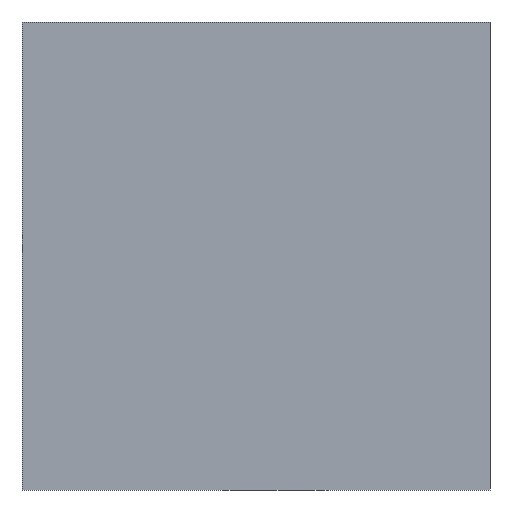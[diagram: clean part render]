
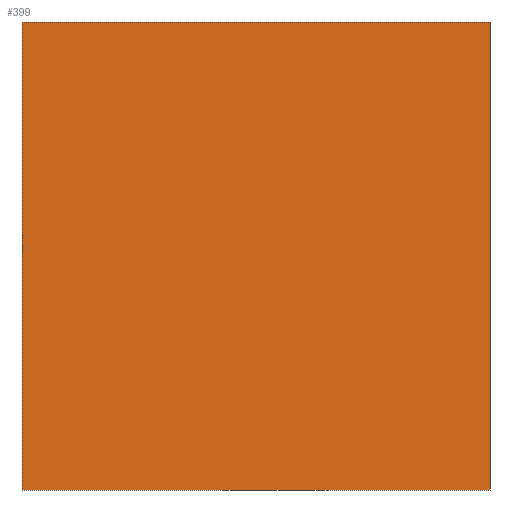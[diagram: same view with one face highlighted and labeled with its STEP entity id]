
A CAD part, left-side view. The second image highlights one B-rep face of the part: STEP entity #399.
In plain terms, the highlighted planar face has unit normal (-1, 0, 0).
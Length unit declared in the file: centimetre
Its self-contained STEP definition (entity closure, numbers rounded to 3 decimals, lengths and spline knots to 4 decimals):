
#5 = CARTESIAN_POINT ( 'NONE',  ( 0., 1000., 0. ) ) ;
#7 = PLANE ( 'NONE',  #333 ) ;
#15 = EDGE_LOOP ( 'NONE', ( #217, #89, #71, #335 ) ) ;
#52 = CARTESIAN_POINT ( 'NONE',  ( 0., 0., 0. ) ) ;
#66 = EDGE_CURVE ( 'NONE', #328, #346, #433, .T. ) ;
#71 = ORIENTED_EDGE ( 'NONE', *, *, #269, .F. ) ;
#74 = DIRECTION ( 'NONE',  ( 1., 0., 0. ) ) ;
#89 = ORIENTED_EDGE ( 'NONE', *, *, #116, .F. ) ;
#96 = VECTOR ( 'NONE', #181, 100. ) ;
#113 = VERTEX_POINT ( 'NONE', #431 ) ;
#115 = CARTESIAN_POINT ( 'NONE',  ( 0., 1000., 0. ) ) ;
#116 = EDGE_CURVE ( 'NONE', #113, #214, #392, .T. ) ;
#128 = CARTESIAN_POINT ( 'NONE',  ( 0., 1000., 1000. ) ) ;
#147 = DIRECTION ( 'NONE',  ( 0., 0., -1. ) ) ;
#168 = DIRECTION ( 'NONE',  ( 0., -1., 0. ) ) ;
#177 = VECTOR ( 'NONE', #301, 100. ) ;
#181 = DIRECTION ( 'NONE',  ( 0., -1., 0. ) ) ;
#214 = VERTEX_POINT ( 'NONE', #52 ) ;
#217 = ORIENTED_EDGE ( 'NONE', *, *, #434, .T. ) ;
#226 = DIRECTION ( 'NONE',  ( 0., 0., -1. ) ) ;
#232 = LINE ( 'NONE', #365, #293 ) ;
#233 = CARTESIAN_POINT ( 'NONE',  ( 0., 0., 1000. ) ) ;
#251 = CARTESIAN_POINT ( 'NONE',  ( 0., 1000., 1000. ) ) ;
#269 = EDGE_CURVE ( 'NONE', #328, #113, #232, .T. ) ;
#279 = FACE_OUTER_BOUND ( 'NONE', #15, .T. ) ;
#293 = VECTOR ( 'NONE', #168, 100. ) ;
#301 = DIRECTION ( 'NONE',  ( 0., 0., -1. ) ) ;
#328 = VERTEX_POINT ( 'NONE', #349 ) ;
#333 = AXIS2_PLACEMENT_3D ( 'NONE', #251, #74, #147 ) ;
#335 = ORIENTED_EDGE ( 'NONE', *, *, #66, .T. ) ;
#346 = VERTEX_POINT ( 'NONE', #115 ) ;
#349 = CARTESIAN_POINT ( 'NONE',  ( 0., 1000., 1000. ) ) ;
#365 = CARTESIAN_POINT ( 'NONE',  ( 0., 1000., 1000. ) ) ;
#392 = LINE ( 'NONE', #233, #177 ) ;
#399 = ADVANCED_FACE ( 'NONE', ( #279 ), #7, .F. ) ;
#415 = LINE ( 'NONE', #5, #96 ) ;
#416 = VECTOR ( 'NONE', #226, 100. ) ;
#431 = CARTESIAN_POINT ( 'NONE',  ( 0., 0., 1000. ) ) ;
#433 = LINE ( 'NONE', #128, #416 ) ;
#434 = EDGE_CURVE ( 'NONE', #346, #214, #415, .T. ) ;
